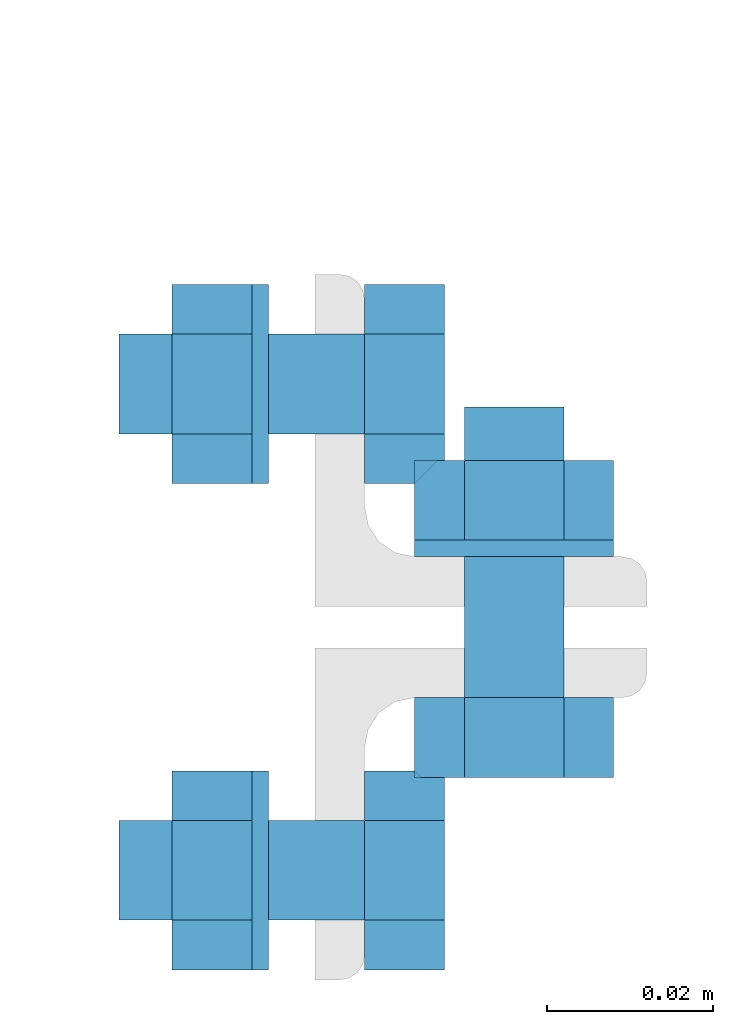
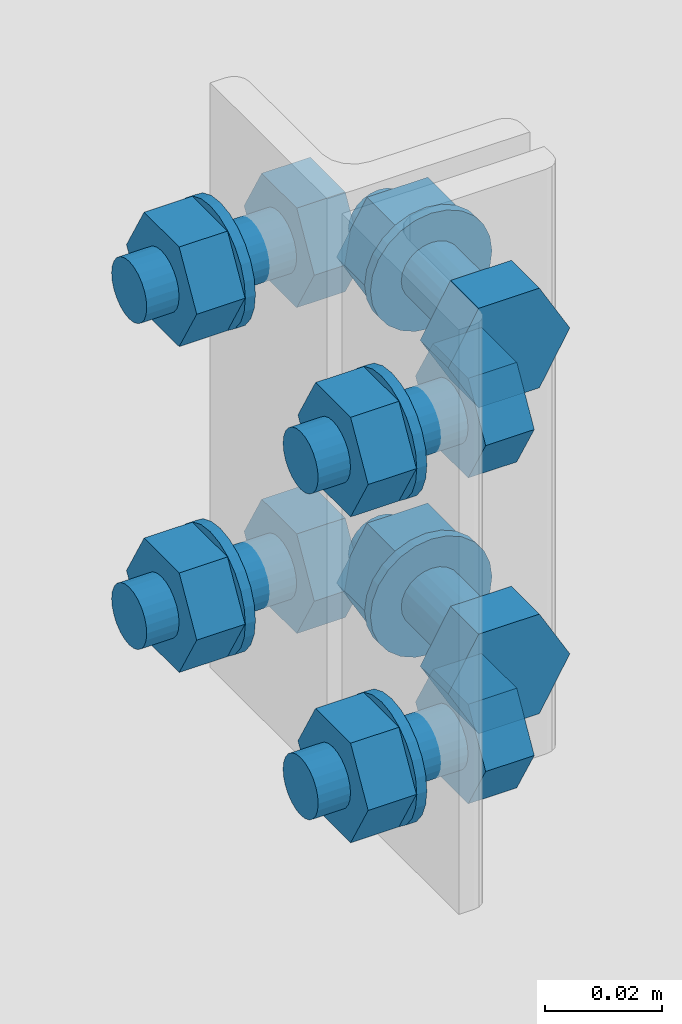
# One storey, part 17 of 20: 32 mechanical fasteners.
"""IFC4 building model written with IfcOpenShell, lengths in metres."""

from ifc_helpers import new_model, si_unit, frame, origin_with_axes, place, context, project, spatial, polyline, outline, extrude, type_object, element, save


model = new_model("IFC4")

# Units and contexts
model_context = context("Model", 3, precision=1e-05, world=origin_with_axes())
ifc_project = project(units=[si_unit("LENGTHUNIT", "METRE"), si_unit("AREAUNIT", "SQUARE_METRE"), si_unit("VOLUMEUNIT", "CUBIC_METRE"), si_unit("MASSUNIT", "GRAM", prefix="KILO"), si_unit("TIMEUNIT", "SECOND"), si_unit("PLANEANGLEUNIT", "RADIAN"), si_unit("SOLIDANGLEUNIT", "STERADIAN"), si_unit("THERMODYNAMICTEMPERATUREUNIT", "DEGREE_CELSIUS")], contexts=[model_context])

# Site, building, storey
placement_1 = place(None, origin_with_axes())
site = spatial("IfcSite", under=ifc_project, at=placement_1, Name="Italia", CompositionType="ELEMENT")
building = spatial("IfcBuilding", under=site, at=placement_1, Name="Tettoia", CompositionType="ELEMENT")
storey = spatial("IfcBuildingStorey", under=building, at=placement_1, Name="Storey 0", CompositionType="ELEMENT", Elevation=0.0)

# Mechanical fasteners
mechanical_fastener_type_1 = type_object("IfcMechanicalFastenerType", Name="Collegamento 0116_0117", PredefinedType="BOLT")
placement_2 = place(placement_1, origin_with_axes())
mechanical_fastener_1_placement = place(placement_2, origin_with_axes())
element("IfcMechanicalFastener", 1, at=mechanical_fastener_1_placement, inside=storey, type_object=mechanical_fastener_type_1, Name="Collegamento 0116_0117", NominalDiameter=0.0119997, context=model_context, shape_type="SweptSolid", body=[
    extrude(outline(polyline([(0.0, 0.0), (-0.0120001, 0.0), (-0.0179996, 0.0103922), (-0.0120001, 0.0207844), (0.0, 0.0207844), (0.00600052, 0.0103922), (0.0, 0.0)])), frame((8.3228, 0.1915, 4.25561), z_axis=(0.0, -1.0, 0.0), x_axis=(1.0, 0.0, 0.0)), (0.0, 0.0, 1.0), 0.00960001),
])
mechanical_fastener_type_2 = type_object("IfcMechanicalFastenerType", Name="Collegamento 0116_0117", PredefinedType="BOLT")
mechanical_fastener_2_placement = place(placement_2, origin_with_axes())
element("IfcMechanicalFastener", 2, at=mechanical_fastener_2_placement, inside=storey, type_object=mechanical_fastener_type_2, Name="Collegamento 0116_0117", NominalDiameter=0.012, context=model_context, shape_type="SweptSolid", body=[
    extrude(outline(polyline([(0.0, 0.0), (-0.000204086, -0.00155306), (-0.000802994, -0.00299978), (-0.00175667, -0.00424242), (-0.00299931, -0.00519609), (-0.00444698, -0.00579548), (-0.00599957, -0.00600004), (-0.00755215, -0.00579548), (-0.00899982, -0.00519609), (-0.0102425, -0.00424242), (-0.0111961, -0.00299978), (-0.011795, -0.00155306), (-0.0119991, 0.0), (-0.011795, 0.00155306), (-0.0111961, 0.00299978), (-0.0102425, 0.00424242), (-0.00899982, 0.00519609), (-0.00755215, 0.00579548), (-0.00599957, 0.00600004), (-0.00444698, 0.00579548), (-0.00299931, 0.00519609), (-0.00175667, 0.00424242), (-0.000802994, 0.00299978), (-0.000204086, 0.00155306), (0.0, 0.0)])), frame((8.3228, 0.2265, 4.266), z_axis=(0.0, -1.0, 0.0), x_axis=(1.0, 0.0, 0.0)), (0.0, 0.0, 1.0), 0.035),
])
mechanical_fastener_type_3 = type_object("IfcMechanicalFastenerType", Name="Collegamento 0116_0117", PredefinedType="BOLT")
mechanical_fastener_3_placement = place(placement_2, origin_with_axes())
element("IfcMechanicalFastener", 3, at=mechanical_fastener_3_placement, inside=storey, type_object=mechanical_fastener_type_3, Name="Collegamento 0116_0117", NominalDiameter=0.0119997, context=model_context, shape_type="SweptSolid", body=[
    extrude(outline(polyline([(0.0, 0.0), (-0.0120001, 0.0), (-0.0179996, 0.0103922), (-0.0120001, 0.0207844), (0.0, 0.0207844), (0.00600052, 0.0103922), (0.0, 0.0)])), frame((8.3228, 0.2201, 4.25561), z_axis=(0.0, -1.0, 0.0), x_axis=(1.0, 0.0, 0.0)), (0.0, 0.0, 1.0), 0.0096),
])
mechanical_fastener_type_4 = type_object("IfcMechanicalFastenerType", Name="Collegamento 0116_0117", PredefinedType="BOLT")
mechanical_fastener_4_placement = place(placement_2, origin_with_axes())
element("IfcMechanicalFastener", 4, at=mechanical_fastener_4_placement, inside=storey, type_object=mechanical_fastener_type_4, Name="Collegamento 0116_0117", NominalDiameter=0.024, context=model_context, shape_type="SweptSolid", body=[
    extrude(outline(polyline([(0.0, 0.0), (-0.000409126, -0.00310564), (-0.00160789, -0.00600004), (-0.00351524, -0.00848532), (-0.00600052, -0.0103922), (-0.00889397, -0.011591), (-0.0120001, -0.0120001), (-0.0151062, -0.011591), (-0.0179996, -0.0103922), (-0.0204849, -0.00848532), (-0.0223923, -0.00600004), (-0.023591, -0.00310564), (-0.0240002, 0.0), (-0.023591, 0.00310564), (-0.0223923, 0.00600004), (-0.0204849, 0.00848532), (-0.0179996, 0.0103922), (-0.0151062, 0.011591), (-0.0120001, 0.0120001), (-0.00889397, 0.011591), (-0.00600052, 0.0103922), (-0.00351524, 0.00848532), (-0.00160789, 0.00600004), (-0.000409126, 0.00310564), (0.0, 0.0)])), frame((8.3288, 0.2105, 4.266), z_axis=(0.0, -1.0, 0.0), x_axis=(1.0, 0.0, 0.0)), (0.0, 0.0, 1.0), 0.002),
])
mechanical_fastener_type_5 = type_object("IfcMechanicalFastenerType", Name="Collegamento 0116_0117", PredefinedType="BOLT")
mechanical_fastener_5_placement = place(placement_2, origin_with_axes())
element("IfcMechanicalFastener", 5, at=mechanical_fastener_5_placement, inside=storey, type_object=mechanical_fastener_type_5, Name="Collegamento 0116_0117", NominalDiameter=0.0119997, context=model_context, shape_type="SweptSolid", body=[
    extrude(outline(polyline([(0.0, 0.0), (-0.0120001, 0.0), (-0.0179996, 0.0103922), (-0.0120001, 0.0207844), (0.0, 0.0207844), (0.00600052, 0.0103922), (0.0, 0.0)])), frame((8.3228, 0.1915, 4.32361), z_axis=(0.0, -1.0, 0.0), x_axis=(1.0, 0.0, 0.0)), (0.0, 0.0, 1.0), 0.00960001),
])
mechanical_fastener_type_6 = type_object("IfcMechanicalFastenerType", Name="Collegamento 0116_0117", PredefinedType="BOLT")
mechanical_fastener_6_placement = place(placement_2, origin_with_axes())
element("IfcMechanicalFastener", 6, at=mechanical_fastener_6_placement, inside=storey, type_object=mechanical_fastener_type_6, Name="Collegamento 0116_0117", NominalDiameter=0.012, context=model_context, shape_type="SweptSolid", body=[
    extrude(outline(polyline([(0.0, 0.0), (-0.000204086, -0.00155306), (-0.000802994, -0.00299978), (-0.00175667, -0.00424242), (-0.00299931, -0.00519609), (-0.00444698, -0.00579548), (-0.00599957, -0.00600004), (-0.00755215, -0.00579548), (-0.00899982, -0.00519609), (-0.0102425, -0.00424242), (-0.0111961, -0.00299978), (-0.011795, -0.00155306), (-0.0119991, 0.0), (-0.011795, 0.00155306), (-0.0111961, 0.00299978), (-0.0102425, 0.00424242), (-0.00899982, 0.00519609), (-0.00755215, 0.00579548), (-0.00599957, 0.00600004), (-0.00444698, 0.00579548), (-0.00299931, 0.00519609), (-0.00175667, 0.00424242), (-0.000802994, 0.00299978), (-0.000204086, 0.00155306), (0.0, 0.0)])), frame((8.3228, 0.2265, 4.334), z_axis=(0.0, -1.0, 0.0), x_axis=(1.0, 0.0, 0.0)), (0.0, 0.0, 1.0), 0.035),
])
mechanical_fastener_type_7 = type_object("IfcMechanicalFastenerType", Name="Collegamento 0116_0117", PredefinedType="BOLT")
mechanical_fastener_7_placement = place(placement_2, origin_with_axes())
element("IfcMechanicalFastener", 7, at=mechanical_fastener_7_placement, inside=storey, type_object=mechanical_fastener_type_7, Name="Collegamento 0116_0117", NominalDiameter=0.0119997, context=model_context, shape_type="SweptSolid", body=[
    extrude(outline(polyline([(0.0, 0.0), (-0.0120001, 0.0), (-0.0179996, 0.0103922), (-0.0120001, 0.0207844), (0.0, 0.0207844), (0.00600052, 0.0103922), (0.0, 0.0)])), frame((8.3228, 0.2201, 4.32361), z_axis=(0.0, -1.0, 0.0), x_axis=(1.0, 0.0, 0.0)), (0.0, 0.0, 1.0), 0.0096),
])
mechanical_fastener_type_8 = type_object("IfcMechanicalFastenerType", Name="Collegamento 0116_0117", PredefinedType="BOLT")
mechanical_fastener_8_placement = place(placement_2, origin_with_axes())
element("IfcMechanicalFastener", 8, at=mechanical_fastener_8_placement, inside=storey, type_object=mechanical_fastener_type_8, Name="Collegamento 0116_0117", NominalDiameter=0.024, context=model_context, shape_type="SweptSolid", body=[
    extrude(outline(polyline([(0.0, 0.0), (-0.000409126, -0.00310564), (-0.00160789, -0.00600004), (-0.00351524, -0.00848532), (-0.00600052, -0.0103922), (-0.00889397, -0.011591), (-0.0120001, -0.0120001), (-0.0151062, -0.011591), (-0.0179996, -0.0103922), (-0.0204849, -0.00848532), (-0.0223923, -0.00600004), (-0.023591, -0.00310564), (-0.0240002, 0.0), (-0.023591, 0.00310564), (-0.0223923, 0.00600004), (-0.0204849, 0.00848532), (-0.0179996, 0.0103922), (-0.0151062, 0.011591), (-0.0120001, 0.0120001), (-0.00889397, 0.011591), (-0.00600052, 0.0103922), (-0.00351524, 0.00848532), (-0.00160789, 0.00600004), (-0.000409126, 0.00310564), (0.0, 0.0)])), frame((8.3288, 0.2105, 4.334), z_axis=(0.0, -1.0, 0.0), x_axis=(1.0, 0.0, 0.0)), (0.0, 0.0, 1.0), 0.002),
])
mechanical_fastener_type_9 = type_object("IfcMechanicalFastenerType", Name="Collegamento 0116_0117", PredefinedType="BOLT")
mechanical_fastener_9_placement = place(placement_2, origin_with_axes())
element("IfcMechanicalFastener", 9, at=mechanical_fastener_9_placement, inside=storey, type_object=mechanical_fastener_type_9, Name="Collegamento 0116_0117", NominalDiameter=0.0119997, context=model_context, shape_type="SweptSolid", body=[
    extrude(outline(polyline([(0.0, 0.0), (-0.0120001, 0.0), (-0.0179996, 0.0103922), (-0.0120001, 0.0207844), (0.0, 0.0207844), (0.00600052, 0.0103922), (0.0, 0.0)])), frame((8.3228, 0.1915, 4.25561), z_axis=(0.0, -1.0, 0.0), x_axis=(1.0, 0.0, 0.0)), (0.0, 0.0, 1.0), 0.00960001),
])
mechanical_fastener_type_10 = type_object("IfcMechanicalFastenerType", Name="Collegamento 0116_0117", PredefinedType="BOLT")
mechanical_fastener_10_placement = place(placement_2, origin_with_axes())
element("IfcMechanicalFastener", 10, at=mechanical_fastener_10_placement, inside=storey, type_object=mechanical_fastener_type_10, Name="Collegamento 0116_0117", NominalDiameter=0.012, context=model_context, shape_type="SweptSolid", body=[
    extrude(outline(polyline([(0.0, 0.0), (-0.000204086, -0.00155306), (-0.000802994, -0.00299978), (-0.00175667, -0.00424242), (-0.00299931, -0.00519609), (-0.00444698, -0.00579548), (-0.00599957, -0.00600004), (-0.00755215, -0.00579548), (-0.00899982, -0.00519609), (-0.0102425, -0.00424242), (-0.0111961, -0.00299978), (-0.011795, -0.00155306), (-0.0119991, 0.0), (-0.011795, 0.00155306), (-0.0111961, 0.00299978), (-0.0102425, 0.00424242), (-0.00899982, 0.00519609), (-0.00755215, 0.00579548), (-0.00599957, 0.00600004), (-0.00444698, 0.00579548), (-0.00299931, 0.00519609), (-0.00175667, 0.00424242), (-0.000802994, 0.00299978), (-0.000204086, 0.00155306), (0.0, 0.0)])), frame((8.3228, 0.2265, 4.266), z_axis=(0.0, -1.0, 0.0), x_axis=(1.0, 0.0, 0.0)), (0.0, 0.0, 1.0), 0.035),
])
mechanical_fastener_type_11 = type_object("IfcMechanicalFastenerType", Name="Collegamento 0116_0117", PredefinedType="BOLT")
mechanical_fastener_11_placement = place(placement_2, origin_with_axes())
element("IfcMechanicalFastener", 11, at=mechanical_fastener_11_placement, inside=storey, type_object=mechanical_fastener_type_11, Name="Collegamento 0116_0117", NominalDiameter=0.0119997, context=model_context, shape_type="SweptSolid", body=[
    extrude(outline(polyline([(0.0, 0.0), (-0.0120001, 0.0), (-0.0179996, 0.0103922), (-0.0120001, 0.0207844), (0.0, 0.0207844), (0.00600052, 0.0103922), (0.0, 0.0)])), frame((8.3228, 0.2201, 4.25561), z_axis=(0.0, -1.0, 0.0), x_axis=(1.0, 0.0, 0.0)), (0.0, 0.0, 1.0), 0.0096),
])
mechanical_fastener_type_12 = type_object("IfcMechanicalFastenerType", Name="Collegamento 0116_0117", PredefinedType="BOLT")
mechanical_fastener_12_placement = place(placement_2, origin_with_axes())
element("IfcMechanicalFastener", 12, at=mechanical_fastener_12_placement, inside=storey, type_object=mechanical_fastener_type_12, Name="Collegamento 0116_0117", NominalDiameter=0.024, context=model_context, shape_type="SweptSolid", body=[
    extrude(outline(polyline([(0.0, 0.0), (-0.000409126, -0.00310564), (-0.00160789, -0.00600004), (-0.00351524, -0.00848532), (-0.00600052, -0.0103922), (-0.00889397, -0.011591), (-0.0120001, -0.0120001), (-0.0151062, -0.011591), (-0.0179996, -0.0103922), (-0.0204849, -0.00848532), (-0.0223923, -0.00600004), (-0.023591, -0.00310564), (-0.0240002, 0.0), (-0.023591, 0.00310564), (-0.0223923, 0.00600004), (-0.0204849, 0.00848532), (-0.0179996, 0.0103922), (-0.0151062, 0.011591), (-0.0120001, 0.0120001), (-0.00889397, 0.011591), (-0.00600052, 0.0103922), (-0.00351524, 0.00848532), (-0.00160789, 0.00600004), (-0.000409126, 0.00310564), (0.0, 0.0)])), frame((8.3288, 0.2105, 4.266), z_axis=(0.0, -1.0, 0.0), x_axis=(1.0, 0.0, 0.0)), (0.0, 0.0, 1.0), 0.002),
])
mechanical_fastener_type_13 = type_object("IfcMechanicalFastenerType", Name="Collegamento 0116_0117", PredefinedType="BOLT")
mechanical_fastener_13_placement = place(placement_2, origin_with_axes())
element("IfcMechanicalFastener", 13, at=mechanical_fastener_13_placement, inside=storey, type_object=mechanical_fastener_type_13, Name="Collegamento 0116_0117", NominalDiameter=0.0119997, context=model_context, shape_type="SweptSolid", body=[
    extrude(outline(polyline([(0.0, 0.0), (-0.0120001, 0.0), (-0.0179996, 0.0103922), (-0.0120001, 0.0207844), (0.0, 0.0207844), (0.00600052, 0.0103922), (0.0, 0.0)])), frame((8.3228, 0.1915, 4.32361), z_axis=(0.0, -1.0, 0.0), x_axis=(1.0, 0.0, 0.0)), (0.0, 0.0, 1.0), 0.00960001),
])
mechanical_fastener_type_14 = type_object("IfcMechanicalFastenerType", Name="Collegamento 0116_0117", PredefinedType="BOLT")
mechanical_fastener_14_placement = place(placement_2, origin_with_axes())
element("IfcMechanicalFastener", 14, at=mechanical_fastener_14_placement, inside=storey, type_object=mechanical_fastener_type_14, Name="Collegamento 0116_0117", NominalDiameter=0.012, context=model_context, shape_type="SweptSolid", body=[
    extrude(outline(polyline([(0.0, 0.0), (-0.000204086, -0.00155306), (-0.000802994, -0.00299978), (-0.00175667, -0.00424242), (-0.00299931, -0.00519609), (-0.00444698, -0.00579548), (-0.00599957, -0.00600004), (-0.00755215, -0.00579548), (-0.00899982, -0.00519609), (-0.0102425, -0.00424242), (-0.0111961, -0.00299978), (-0.011795, -0.00155306), (-0.0119991, 0.0), (-0.011795, 0.00155306), (-0.0111961, 0.00299978), (-0.0102425, 0.00424242), (-0.00899982, 0.00519609), (-0.00755215, 0.00579548), (-0.00599957, 0.00600004), (-0.00444698, 0.00579548), (-0.00299931, 0.00519609), (-0.00175667, 0.00424242), (-0.000802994, 0.00299978), (-0.000204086, 0.00155306), (0.0, 0.0)])), frame((8.3228, 0.2265, 4.334), z_axis=(0.0, -1.0, 0.0), x_axis=(1.0, 0.0, 0.0)), (0.0, 0.0, 1.0), 0.035),
])
mechanical_fastener_type_15 = type_object("IfcMechanicalFastenerType", Name="Collegamento 0116_0117", PredefinedType="BOLT")
mechanical_fastener_15_placement = place(placement_2, origin_with_axes())
element("IfcMechanicalFastener", 15, at=mechanical_fastener_15_placement, inside=storey, type_object=mechanical_fastener_type_15, Name="Collegamento 0116_0117", NominalDiameter=0.0119997, context=model_context, shape_type="SweptSolid", body=[
    extrude(outline(polyline([(0.0, 0.0), (-0.0120001, 0.0), (-0.0179996, 0.0103922), (-0.0120001, 0.0207844), (0.0, 0.0207844), (0.00600052, 0.0103922), (0.0, 0.0)])), frame((8.3228, 0.2201, 4.32361), z_axis=(0.0, -1.0, 0.0), x_axis=(1.0, 0.0, 0.0)), (0.0, 0.0, 1.0), 0.0096),
])
mechanical_fastener_type_16 = type_object("IfcMechanicalFastenerType", Name="Collegamento 0116_0117", PredefinedType="BOLT")
mechanical_fastener_16_placement = place(placement_2, origin_with_axes())
element("IfcMechanicalFastener", 16, at=mechanical_fastener_16_placement, inside=storey, type_object=mechanical_fastener_type_16, Name="Collegamento 0116_0117", NominalDiameter=0.024, context=model_context, shape_type="SweptSolid", body=[
    extrude(outline(polyline([(0.0, 0.0), (-0.000409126, -0.00310564), (-0.00160789, -0.00600004), (-0.00351524, -0.00848532), (-0.00600052, -0.0103922), (-0.00889397, -0.011591), (-0.0120001, -0.0120001), (-0.0151062, -0.011591), (-0.0179996, -0.0103922), (-0.0204849, -0.00848532), (-0.0223923, -0.00600004), (-0.023591, -0.00310564), (-0.0240002, 0.0), (-0.023591, 0.00310564), (-0.0223923, 0.00600004), (-0.0204849, 0.00848532), (-0.0179996, 0.0103922), (-0.0151062, 0.011591), (-0.0120001, 0.0120001), (-0.00889397, 0.011591), (-0.00600052, 0.0103922), (-0.00351524, 0.00848532), (-0.00160789, 0.00600004), (-0.000409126, 0.00310564), (0.0, 0.0)])), frame((8.3288, 0.2105, 4.334), z_axis=(0.0, -1.0, 0.0), x_axis=(1.0, 0.0, 0.0)), (0.0, 0.0, 1.0), 0.002),
])
mechanical_fastener_type_17 = type_object("IfcMechanicalFastenerType", Name="Collegamento 0116_0117", PredefinedType="BOLT")
mechanical_fastener_17_placement = place(placement_2, origin_with_axes())
element("IfcMechanicalFastener", 17, at=mechanical_fastener_17_placement, inside=storey, type_object=mechanical_fastener_type_17, Name="Collegamento 0116_0117", NominalDiameter=0.0119999, context=model_context, shape_type="SweptSolid", body=[
    extrude(outline(polyline([(0.0, 0.0), (-0.012, 0.0), (-0.018, 0.0103922), (-0.012, 0.0207844), (0.0, 0.0207844), (0.006, 0.0103922), (0.0, 0.0)])), frame((8.2988, 0.2353, 4.25561), z_axis=(1.0, 0.0, 0.0), x_axis=(0.0, 1.0, 0.0)), (0.0, 0.0, 1.0), 0.00960064),
])
mechanical_fastener_type_18 = type_object("IfcMechanicalFastenerType", Name="Collegamento 0116_0117", PredefinedType="BOLT")
mechanical_fastener_18_placement = place(placement_2, origin_with_axes())
element("IfcMechanicalFastener", 18, at=mechanical_fastener_18_placement, inside=storey, type_object=mechanical_fastener_type_18, Name="Collegamento 0116_0117", NominalDiameter=0.012, context=model_context, shape_type="SweptSolid", body=[
    extrude(outline(polyline([(0.0, 0.0), (-0.000204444, -0.00155306), (-0.000803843, -0.00299978), (-0.00175735, -0.00424242), (-0.00299999, -0.00519609), (-0.00444709, -0.00579548), (-0.006, -0.00600004), (-0.00755291, -0.00579548), (-0.009, -0.00519609), (-0.0102426, -0.00424242), (-0.0111962, -0.00299978), (-0.0117956, -0.00155306), (-0.012, 0.0), (-0.0117956, 0.00155306), (-0.0111962, 0.00299978), (-0.0102426, 0.00424242), (-0.009, 0.00519609), (-0.00755291, 0.00579548), (-0.006, 0.00600004), (-0.00444709, 0.00579548), (-0.00299999, 0.00519609), (-0.00175735, 0.00424242), (-0.000803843, 0.00299978), (-0.000204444, 0.00155306), (0.0, 0.0)])), frame((8.2692, 0.2353, 4.266), z_axis=(1.0, 0.0, 0.0), x_axis=(0.0, 1.0, 0.0)), (0.0, 0.0, 1.0), 0.0295992),
])
mechanical_fastener_type_19 = type_object("IfcMechanicalFastenerType", Name="Collegamento 0116_0117", PredefinedType="BOLT")
mechanical_fastener_19_placement = place(placement_2, origin_with_axes())
element("IfcMechanicalFastener", 19, at=mechanical_fastener_19_placement, inside=storey, type_object=mechanical_fastener_type_19, Name="Collegamento 0116_0117", NominalDiameter=0.0119999, context=model_context, shape_type="SweptSolid", body=[
    extrude(outline(polyline([(0.0, 0.0), (-0.012, 0.0), (-0.018, 0.0103922), (-0.012, 0.0207844), (0.0, 0.0207844), (0.006, 0.0103922), (0.0, 0.0)])), frame((8.2756, 0.2353, 4.25561), z_axis=(1.0, 0.0, 0.0), x_axis=(0.0, 1.0, 0.0)), (0.0, 0.0, 1.0), 0.00960064),
])
mechanical_fastener_type_20 = type_object("IfcMechanicalFastenerType", Name="Collegamento 0116_0117", PredefinedType="BOLT")
mechanical_fastener_20_placement = place(placement_2, origin_with_axes())
element("IfcMechanicalFastener", 20, at=mechanical_fastener_20_placement, inside=storey, type_object=mechanical_fastener_type_20, Name="Collegamento 0116_0117", NominalDiameter=0.024, context=model_context, shape_type="SweptSolid", body=[
    extrude(outline(polyline([(0.0, 0.0), (-0.000408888, -0.00310564), (-0.00160769, -0.00600004), (-0.00351471, -0.00848532), (-0.006, -0.0103922), (-0.00889416, -0.011591), (-0.012, -0.0120001), (-0.0151058, -0.011591), (-0.018, -0.0103922), (-0.0204853, -0.00848532), (-0.0223923, -0.00600004), (-0.0235911, -0.00310564), (-0.024, 0.0), (-0.0235911, 0.00310564), (-0.0223923, 0.00600004), (-0.0204853, 0.00848532), (-0.018, 0.0103922), (-0.0151058, 0.011591), (-0.012, 0.0120001), (-0.00889416, 0.011591), (-0.006, 0.0103922), (-0.00351471, 0.00848532), (-0.00160769, 0.00600004), (-0.000408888, 0.00310564), (0.0, 0.0)])), frame((8.2852, 0.2413, 4.266), z_axis=(1.0, 0.0, 0.0), x_axis=(0.0, 1.0, 0.0)), (0.0, 0.0, 1.0), 0.00199986),
])
mechanical_fastener_type_21 = type_object("IfcMechanicalFastenerType", Name="Collegamento 0116_0117", PredefinedType="BOLT")
mechanical_fastener_21_placement = place(placement_2, origin_with_axes())
element("IfcMechanicalFastener", 21, at=mechanical_fastener_21_placement, inside=storey, type_object=mechanical_fastener_type_21, Name="Collegamento 0116_0117", NominalDiameter=0.0119999, context=model_context, shape_type="SweptSolid", body=[
    extrude(outline(polyline([(0.0, 0.0), (-0.012, 0.0), (-0.018, 0.0103922), (-0.012, 0.0207844), (0.0, 0.0207844), (0.006, 0.0103922), (0.0, 0.0)])), frame((8.2988, 0.2353, 4.32361), z_axis=(1.0, 0.0, 0.0), x_axis=(0.0, 1.0, 0.0)), (0.0, 0.0, 1.0), 0.00960064),
])
mechanical_fastener_type_22 = type_object("IfcMechanicalFastenerType", Name="Collegamento 0116_0117", PredefinedType="BOLT")
mechanical_fastener_22_placement = place(placement_2, origin_with_axes())
element("IfcMechanicalFastener", 22, at=mechanical_fastener_22_placement, inside=storey, type_object=mechanical_fastener_type_22, Name="Collegamento 0116_0117", NominalDiameter=0.012, context=model_context, shape_type="SweptSolid", body=[
    extrude(outline(polyline([(0.0, 0.0), (-0.000204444, -0.00155306), (-0.000803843, -0.00299978), (-0.00175735, -0.00424242), (-0.00299999, -0.00519609), (-0.00444709, -0.00579548), (-0.006, -0.00600004), (-0.00755291, -0.00579548), (-0.009, -0.00519609), (-0.0102426, -0.00424242), (-0.0111962, -0.00299978), (-0.0117956, -0.00155306), (-0.012, 0.0), (-0.0117956, 0.00155306), (-0.0111962, 0.00299978), (-0.0102426, 0.00424242), (-0.009, 0.00519609), (-0.00755291, 0.00579548), (-0.006, 0.00600004), (-0.00444709, 0.00579548), (-0.00299999, 0.00519609), (-0.00175735, 0.00424242), (-0.000803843, 0.00299978), (-0.000204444, 0.00155306), (0.0, 0.0)])), frame((8.2692, 0.2353, 4.334), z_axis=(1.0, 0.0, 0.0), x_axis=(0.0, 1.0, 0.0)), (0.0, 0.0, 1.0), 0.0295992),
])
mechanical_fastener_type_23 = type_object("IfcMechanicalFastenerType", Name="Collegamento 0116_0117", PredefinedType="BOLT")
mechanical_fastener_23_placement = place(placement_2, origin_with_axes())
element("IfcMechanicalFastener", 23, at=mechanical_fastener_23_placement, inside=storey, type_object=mechanical_fastener_type_23, Name="Collegamento 0116_0117", NominalDiameter=0.0119999, context=model_context, shape_type="SweptSolid", body=[
    extrude(outline(polyline([(0.0, 0.0), (-0.012, 0.0), (-0.018, 0.0103922), (-0.012, 0.0207844), (0.0, 0.0207844), (0.006, 0.0103922), (0.0, 0.0)])), frame((8.2756, 0.2353, 4.32361), z_axis=(1.0, 0.0, 0.0), x_axis=(0.0, 1.0, 0.0)), (0.0, 0.0, 1.0), 0.00960064),
])
mechanical_fastener_type_24 = type_object("IfcMechanicalFastenerType", Name="Collegamento 0116_0117", PredefinedType="BOLT")
mechanical_fastener_24_placement = place(placement_2, origin_with_axes())
element("IfcMechanicalFastener", 24, at=mechanical_fastener_24_placement, inside=storey, type_object=mechanical_fastener_type_24, Name="Collegamento 0116_0117", NominalDiameter=0.024, context=model_context, shape_type="SweptSolid", body=[
    extrude(outline(polyline([(0.0, 0.0), (-0.000408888, -0.00310564), (-0.00160769, -0.00600004), (-0.00351471, -0.00848532), (-0.006, -0.0103922), (-0.00889416, -0.011591), (-0.012, -0.0120001), (-0.0151058, -0.011591), (-0.018, -0.0103922), (-0.0204853, -0.00848532), (-0.0223923, -0.00600004), (-0.0235911, -0.00310564), (-0.024, 0.0), (-0.0235911, 0.00310564), (-0.0223923, 0.00600004), (-0.0204853, 0.00848532), (-0.018, 0.0103922), (-0.0151058, 0.011591), (-0.012, 0.0120001), (-0.00889416, 0.011591), (-0.006, 0.0103922), (-0.00351471, 0.00848532), (-0.00160769, 0.00600004), (-0.000408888, 0.00310564), (0.0, 0.0)])), frame((8.2852, 0.2413, 4.334), z_axis=(1.0, 0.0, 0.0), x_axis=(0.0, 1.0, 0.0)), (0.0, 0.0, 1.0), 0.00199986),
])
mechanical_fastener_type_25 = type_object("IfcMechanicalFastenerType", Name="Collegamento 0116_0117", PredefinedType="BOLT")
mechanical_fastener_25_placement = place(placement_2, origin_with_axes())
element("IfcMechanicalFastener", 25, at=mechanical_fastener_25_placement, inside=storey, type_object=mechanical_fastener_type_25, Name="Collegamento 0116_0117", NominalDiameter=0.0119999, context=model_context, shape_type="SweptSolid", body=[
    extrude(outline(polyline([(0.0, 0.0), (-0.012, 0.0), (-0.018, 0.0103922), (-0.012, 0.0207844), (0.0, 0.0207844), (0.006, 0.0103922), (0.0, 0.0)])), frame((8.3084, 0.1647, 4.25561), z_axis=(-1.0, 0.0, 0.0), x_axis=(0.0, -1.0, 0.0)), (0.0, 0.0, 1.0), 0.00960064),
])
mechanical_fastener_type_26 = type_object("IfcMechanicalFastenerType", Name="Collegamento 0116_0117", PredefinedType="BOLT")
mechanical_fastener_26_placement = place(placement_2, origin_with_axes())
element("IfcMechanicalFastener", 26, at=mechanical_fastener_26_placement, inside=storey, type_object=mechanical_fastener_type_26, Name="Collegamento 0116_0117", NominalDiameter=0.012, context=model_context, shape_type="SweptSolid", body=[
    extrude(outline(polyline([(0.0, 0.0), (-0.000204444, -0.00155306), (-0.000803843, -0.00299978), (-0.00175735, -0.00424242), (-0.00299999, -0.00519609), (-0.00444709, -0.00579548), (-0.006, -0.00600004), (-0.00755291, -0.00579548), (-0.009, -0.00519609), (-0.0102426, -0.00424242), (-0.0111962, -0.00299978), (-0.0117956, -0.00155306), (-0.012, 0.0), (-0.0117956, 0.00155306), (-0.0111962, 0.00299978), (-0.0102426, 0.00424242), (-0.009, 0.00519609), (-0.00755291, 0.00579548), (-0.006, 0.00600004), (-0.00444709, 0.00579548), (-0.00299999, 0.00519609), (-0.00175735, 0.00424242), (-0.000803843, 0.00299978), (-0.000204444, 0.00155306), (0.0, 0.0)])), frame((8.2988, 0.1647, 4.266), z_axis=(-1.0, 0.0, 0.0), x_axis=(0.0, -1.0, 0.0)), (0.0, 0.0, 1.0), 0.0295992),
])
mechanical_fastener_type_27 = type_object("IfcMechanicalFastenerType", Name="Collegamento 0116_0117", PredefinedType="BOLT")
mechanical_fastener_27_placement = place(placement_2, origin_with_axes())
element("IfcMechanicalFastener", 27, at=mechanical_fastener_27_placement, inside=storey, type_object=mechanical_fastener_type_27, Name="Collegamento 0116_0117", NominalDiameter=0.0119999, context=model_context, shape_type="SweptSolid", body=[
    extrude(outline(polyline([(0.0, 0.0), (-0.012, 0.0), (-0.018, 0.0103922), (-0.012, 0.0207844), (0.0, 0.0207844), (0.006, 0.0103922), (0.0, 0.0)])), frame((8.2852, 0.1647, 4.25561), z_axis=(-1.0, 0.0, 0.0), x_axis=(0.0, -1.0, 0.0)), (0.0, 0.0, 1.0), 0.00960064),
])
mechanical_fastener_type_28 = type_object("IfcMechanicalFastenerType", Name="Collegamento 0116_0117", PredefinedType="BOLT")
mechanical_fastener_28_placement = place(placement_2, origin_with_axes())
element("IfcMechanicalFastener", 28, at=mechanical_fastener_28_placement, inside=storey, type_object=mechanical_fastener_type_28, Name="Collegamento 0116_0117", NominalDiameter=0.024, context=model_context, shape_type="SweptSolid", body=[
    extrude(outline(polyline([(0.0, 0.0), (-0.000408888, -0.00310564), (-0.00160769, -0.00600004), (-0.00351471, -0.00848532), (-0.006, -0.0103922), (-0.00889416, -0.011591), (-0.012, -0.0120001), (-0.0151058, -0.011591), (-0.018, -0.0103922), (-0.0204853, -0.00848532), (-0.0223923, -0.00600004), (-0.0235911, -0.00310564), (-0.024, 0.0), (-0.0235911, 0.00310564), (-0.0223923, 0.00600004), (-0.0204853, 0.00848532), (-0.018, 0.0103922), (-0.0151058, 0.011591), (-0.012, 0.0120001), (-0.00889416, 0.011591), (-0.006, 0.0103922), (-0.00351471, 0.00848532), (-0.00160769, 0.00600004), (-0.000408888, 0.00310564), (0.0, 0.0)])), frame((8.2872, 0.1587, 4.266), z_axis=(-1.0, 0.0, 0.0), x_axis=(0.0, -1.0, 0.0)), (0.0, 0.0, 1.0), 0.00199986),
])
mechanical_fastener_type_29 = type_object("IfcMechanicalFastenerType", Name="Collegamento 0116_0117", PredefinedType="BOLT")
mechanical_fastener_29_placement = place(placement_2, origin_with_axes())
element("IfcMechanicalFastener", 29, at=mechanical_fastener_29_placement, inside=storey, type_object=mechanical_fastener_type_29, Name="Collegamento 0116_0117", NominalDiameter=0.0119999, context=model_context, shape_type="SweptSolid", body=[
    extrude(outline(polyline([(0.0, 0.0), (-0.012, 0.0), (-0.018, 0.0103922), (-0.012, 0.0207844), (0.0, 0.0207844), (0.006, 0.0103922), (0.0, 0.0)])), frame((8.3084, 0.1647, 4.32361), z_axis=(-1.0, 0.0, 0.0), x_axis=(0.0, -1.0, 0.0)), (0.0, 0.0, 1.0), 0.00960064),
])
mechanical_fastener_type_30 = type_object("IfcMechanicalFastenerType", Name="Collegamento 0116_0117", PredefinedType="BOLT")
mechanical_fastener_30_placement = place(placement_2, origin_with_axes())
element("IfcMechanicalFastener", 30, at=mechanical_fastener_30_placement, inside=storey, type_object=mechanical_fastener_type_30, Name="Collegamento 0116_0117", NominalDiameter=0.012, context=model_context, shape_type="SweptSolid", body=[
    extrude(outline(polyline([(0.0, 0.0), (-0.000204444, -0.00155306), (-0.000803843, -0.00299978), (-0.00175735, -0.00424242), (-0.00299999, -0.00519609), (-0.00444709, -0.00579548), (-0.006, -0.00600004), (-0.00755291, -0.00579548), (-0.009, -0.00519609), (-0.0102426, -0.00424242), (-0.0111962, -0.00299978), (-0.0117956, -0.00155306), (-0.012, 0.0), (-0.0117956, 0.00155306), (-0.0111962, 0.00299978), (-0.0102426, 0.00424242), (-0.009, 0.00519609), (-0.00755291, 0.00579548), (-0.006, 0.00600004), (-0.00444709, 0.00579548), (-0.00299999, 0.00519609), (-0.00175735, 0.00424242), (-0.000803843, 0.00299978), (-0.000204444, 0.00155306), (0.0, 0.0)])), frame((8.2988, 0.1647, 4.334), z_axis=(-1.0, 0.0, 0.0), x_axis=(0.0, -1.0, 0.0)), (0.0, 0.0, 1.0), 0.0295992),
])
mechanical_fastener_type_31 = type_object("IfcMechanicalFastenerType", Name="Collegamento 0116_0117", PredefinedType="BOLT")
mechanical_fastener_31_placement = place(placement_2, origin_with_axes())
element("IfcMechanicalFastener", 31, at=mechanical_fastener_31_placement, inside=storey, type_object=mechanical_fastener_type_31, Name="Collegamento 0116_0117", NominalDiameter=0.0119999, context=model_context, shape_type="SweptSolid", body=[
    extrude(outline(polyline([(0.0, 0.0), (-0.012, 0.0), (-0.018, 0.0103922), (-0.012, 0.0207844), (0.0, 0.0207844), (0.006, 0.0103922), (0.0, 0.0)])), frame((8.2852, 0.1647, 4.32361), z_axis=(-1.0, 0.0, 0.0), x_axis=(0.0, -1.0, 0.0)), (0.0, 0.0, 1.0), 0.00960064),
])
mechanical_fastener_type_32 = type_object("IfcMechanicalFastenerType", Name="Collegamento 0116_0117", PredefinedType="BOLT")
mechanical_fastener_32_placement = place(placement_2, origin_with_axes())
element("IfcMechanicalFastener", 32, at=mechanical_fastener_32_placement, inside=storey, type_object=mechanical_fastener_type_32, Name="Collegamento 0116_0117", NominalDiameter=0.024, context=model_context, shape_type="SweptSolid", body=[
    extrude(outline(polyline([(0.0, 0.0), (-0.000408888, -0.00310564), (-0.00160769, -0.00600004), (-0.00351471, -0.00848532), (-0.006, -0.0103922), (-0.00889416, -0.011591), (-0.012, -0.0120001), (-0.0151058, -0.011591), (-0.018, -0.0103922), (-0.0204853, -0.00848532), (-0.0223923, -0.00600004), (-0.0235911, -0.00310564), (-0.024, 0.0), (-0.0235911, 0.00310564), (-0.0223923, 0.00600004), (-0.0204853, 0.00848532), (-0.018, 0.0103922), (-0.0151058, 0.011591), (-0.012, 0.0120001), (-0.00889416, 0.011591), (-0.006, 0.0103922), (-0.00351471, 0.00848532), (-0.00160769, 0.00600004), (-0.000408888, 0.00310564), (0.0, 0.0)])), frame((8.2872, 0.1587, 4.334), z_axis=(-1.0, 0.0, 0.0), x_axis=(0.0, -1.0, 0.0)), (0.0, 0.0, 1.0), 0.00199986),
])

save(model, "model.ifc")
